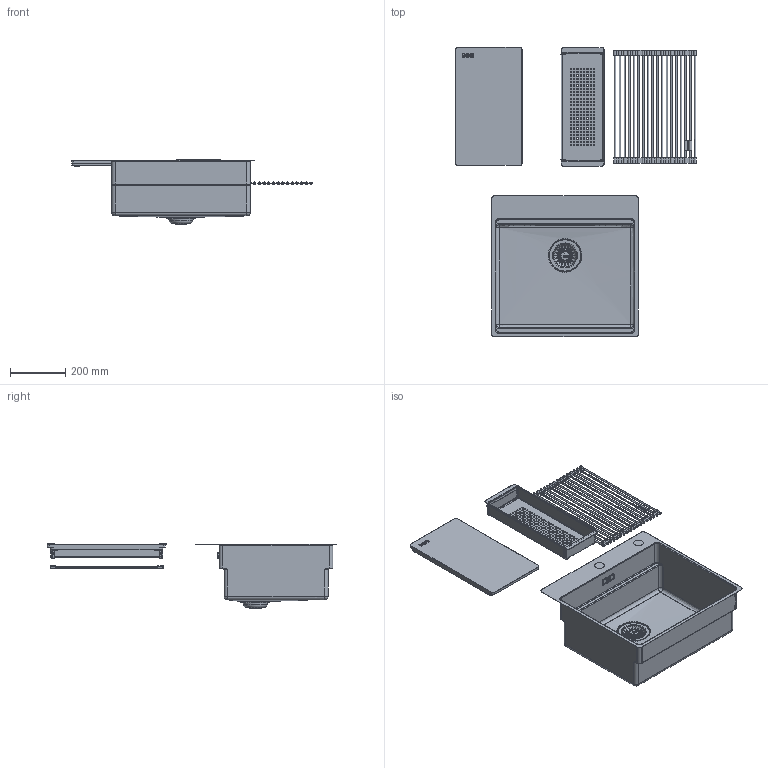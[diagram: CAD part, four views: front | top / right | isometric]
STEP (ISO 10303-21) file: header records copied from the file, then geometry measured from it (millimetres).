
FILE_DESCRIPTION(/* description */ (''),/* implementation_level */ '2;1');
FILE_NAME(/* name */ '3D001_Sinks_Box-Pro_BXX-PRO-210-50-TL',/* time_stamp */ '2026-07-01T17:41:20+02:00',/* author */ (''),/* organization */ (''),/* preprocessor_version */ 'ST-DEVELOPER v19.2',/* originating_system */ 'Rhino 8.31',/* authorisation */ '');
FILE_SCHEMA (('CONFIG_CONTROL_DESIGN'));
Products named in the file (11): Document; 20287093_iam_000; 20287095_ipt_000; 20111975_IPT_000; ROLLMAT; 20116789_IPT_000; STRAINER_BOWL; 20116746_IPT_000; 20116745_IPT_000; 20110328_IPT_000; OVERFLOW
Bounding box: 870.31 x 1047.9 x 234.72 mm (x, y, z)
Volume: 2355458.8 mm3; surface area: 2052408.8 mm2
Topology: 48 solids, 55 shells, 5419 faces, 14944 edges, 9677 vertices
Faces by surface type: plane 2743, cylinder 1743, bspline 933
Full cylindrical faces by diameter (mm): 3.9 x4, 4 x8, 4.8 x18, 5 x12, 5.05 x4, 5.994 x1, 6 x57, 6.2 x1, 8 x1, 11 x1, 12.6 x1, 13.743 x1, 25 x1, 31 x1, 47 x1, 84 x1, 89 x1
Entity records: 196478 total; most frequent: CARTESIAN_POINT 90327, ORIENTED_EDGE 25754, EDGE_CURVE 12949, DIRECTION 12919, B_SPLINE_CURVE_WITH_KNOTS 8481, VERTEX_POINT 8450, AXIS2_PLACEMENT_3D 8442, EDGE_LOOP 5249
